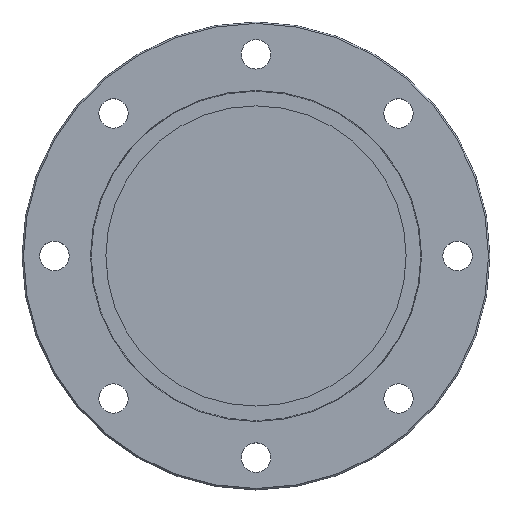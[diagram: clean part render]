
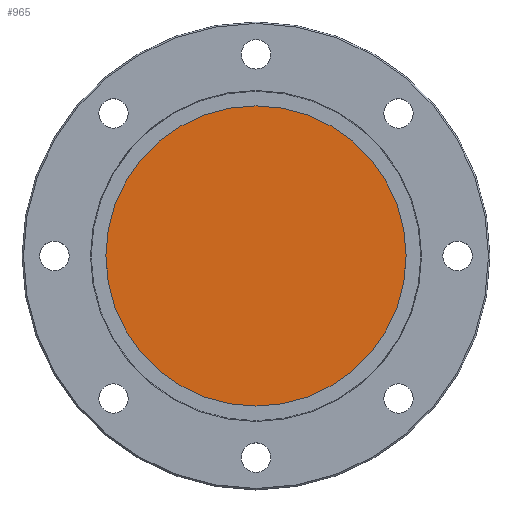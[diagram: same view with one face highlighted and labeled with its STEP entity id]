
A CAD part, top view. The second image highlights one B-rep face of the part: STEP entity #965.
In plain terms, the highlighted planar face has unit normal (0, 0, 1).
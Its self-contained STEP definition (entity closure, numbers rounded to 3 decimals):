
#20 = DIRECTION ( 'NONE',  ( 1., 0., 0. ) ) ;
#132 = DIRECTION ( 'NONE',  ( 1., 0., 0. ) ) ;
#231 = FACE_OUTER_BOUND ( 'NONE', #823, .T. ) ;
#241 = CIRCLE ( 'NONE', #708, 51. ) ;
#268 = EDGE_CURVE ( 'NONE', #458, #968, #955, .T. ) ;
#324 = CARTESIAN_POINT ( 'NONE',  ( 51., 0., 13.518 ) ) ;
#426 = AXIS2_PLACEMENT_3D ( 'NONE', #430, #579, #20 ) ;
#430 = CARTESIAN_POINT ( 'NONE',  ( 0., 0., 13.518 ) ) ;
#458 = VERTEX_POINT ( 'NONE', #543 ) ;
#543 = CARTESIAN_POINT ( 'NONE',  ( -51., 0., 13.518 ) ) ;
#552 = AXIS2_PLACEMENT_3D ( 'NONE', #558, #704, #1019 ) ;
#558 = CARTESIAN_POINT ( 'NONE',  ( 0., 51., 13.518 ) ) ;
#579 = DIRECTION ( 'NONE',  ( 0., 0., 1. ) ) ;
#704 = DIRECTION ( 'NONE',  ( 0., 0., -1. ) ) ;
#708 = AXIS2_PLACEMENT_3D ( 'NONE', #992, #844, #132 ) ;
#729 = ORIENTED_EDGE ( 'NONE', *, *, #268, .T. ) ;
#808 = EDGE_CURVE ( 'NONE', #968, #458, #241, .T. ) ;
#823 = EDGE_LOOP ( 'NONE', ( #981, #729 ) ) ;
#844 = DIRECTION ( 'NONE',  ( 0., 0., 1. ) ) ;
#955 = CIRCLE ( 'NONE', #426, 51. ) ;
#965 = ADVANCED_FACE ( 'NONE', ( #231 ), #1025, .F. ) ;
#968 = VERTEX_POINT ( 'NONE', #324 ) ;
#981 = ORIENTED_EDGE ( 'NONE', *, *, #808, .T. ) ;
#992 = CARTESIAN_POINT ( 'NONE',  ( 0., 0., 13.518 ) ) ;
#1019 = DIRECTION ( 'NONE',  ( -1., 0., 0. ) ) ;
#1025 = PLANE ( 'NONE',  #552 ) ;
